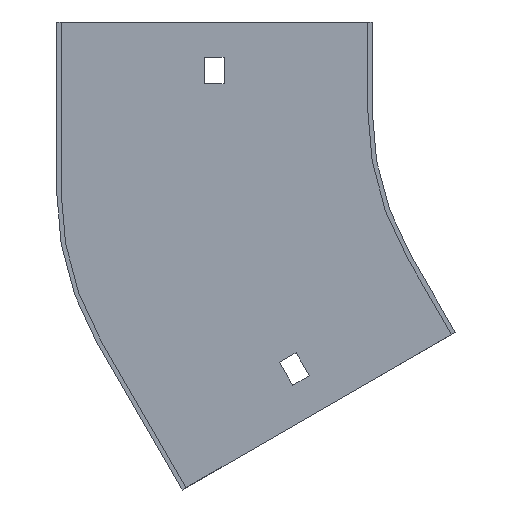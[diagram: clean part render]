
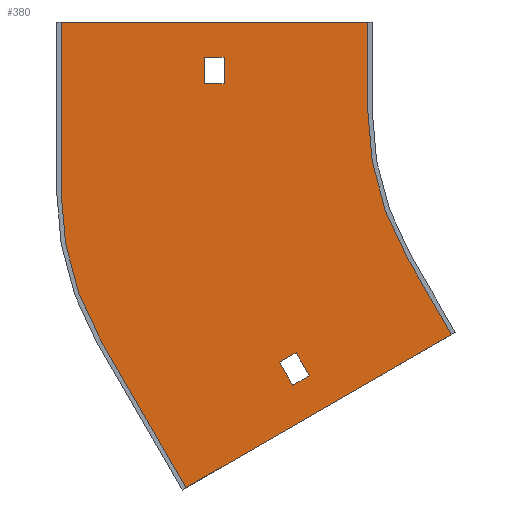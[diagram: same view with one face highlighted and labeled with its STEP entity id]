
A CAD part, front view. The second image highlights one B-rep face of the part: STEP entity #380.
In plain terms, the highlighted planar face has unit normal (0, -1, 0).
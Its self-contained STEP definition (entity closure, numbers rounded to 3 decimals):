
#3 = VECTOR ( 'NONE', #405, 1000. ) ;
#8 = DIRECTION ( 'NONE',  ( 0.866, 0., 0.5 ) ) ;
#14 = EDGE_CURVE ( 'NONE', #391, #451, #806, .T. ) ;
#15 = DIRECTION ( 'NONE',  ( 0., -1., 0. ) ) ;
#19 = ORIENTED_EDGE ( 'NONE', *, *, #713, .T. ) ;
#32 = VECTOR ( 'NONE', #241, 1000. ) ;
#35 = AXIS2_PLACEMENT_3D ( 'NONE', #521, #575, #245 ) ;
#37 = CARTESIAN_POINT ( 'NONE',  ( -71.603, -1.5, -75.981 ) ) ;
#39 = ORIENTED_EDGE ( 'NONE', *, *, #263, .F. ) ;
#40 = CARTESIAN_POINT ( 'NONE',  ( -119.821, -1.5, -89.963 ) ) ;
#54 = LINE ( 'NONE', #593, #707 ) ;
#60 = CARTESIAN_POINT ( 'NONE',  ( -204., -1.5, -27.867 ) ) ;
#68 = ORIENTED_EDGE ( 'NONE', *, *, #14, .F. ) ;
#73 = CARTESIAN_POINT ( 'NONE',  ( -134.45, -1.5, -77.625 ) ) ;
#82 = VECTOR ( 'NONE', #552, 1000. ) ;
#108 = LINE ( 'NONE', #586, #32 ) ;
#114 = VERTEX_POINT ( 'NONE', #408 ) ;
#122 = VECTOR ( 'NONE', #148, 1000. ) ;
#123 = DIRECTION ( 'NONE',  ( -0.5, 0., 0.866 ) ) ;
#134 = EDGE_CURVE ( 'NONE', #244, #302, #540, .T. ) ;
#138 = DIRECTION ( 'NONE',  ( -0.866, 0., -0.5 ) ) ;
#144 = VERTEX_POINT ( 'NONE', #796 ) ;
#148 = DIRECTION ( 'NONE',  ( 0.5, 0., -0.866 ) ) ;
#154 = DIRECTION ( 'NONE',  ( 0., 0., -1. ) ) ;
#159 = LINE ( 'NONE', #579, #275 ) ;
#160 = CARTESIAN_POINT ( 'NONE',  ( -161.669, -1.5, -127.981 ) ) ;
#171 = CARTESIAN_POINT ( 'NONE',  ( -155.25, -1.5, 9. ) ) ;
#176 = CARTESIAN_POINT ( 'NONE',  ( -204., -1.5, 30. ) ) ;
#180 = ORIENTED_EDGE ( 'NONE', *, *, #277, .F. ) ;
#184 = EDGE_CURVE ( 'NONE', #451, #246, #199, .T. ) ;
#189 = VECTOR ( 'NONE', #329, 1000. ) ;
#198 = CARTESIAN_POINT ( 'NONE',  ( -148.75, -1.5, 0. ) ) ;
#199 = LINE ( 'NONE', #411, #210 ) ;
#210 = VECTOR ( 'NONE', #138, 1000. ) ;
#212 = ORIENTED_EDGE ( 'NONE', *, *, #508, .F. ) ;
#215 = EDGE_CURVE ( 'NONE', #246, #144, #618, .T. ) ;
#218 = CARTESIAN_POINT ( 'NONE',  ( -86.603, -1.5, -50. ) ) ;
#229 = LINE ( 'NONE', #768, #122 ) ;
#233 = LINE ( 'NONE', #160, #821 ) ;
#237 = ORIENTED_EDGE ( 'NONE', *, *, #664, .F. ) ;
#241 = DIRECTION ( 'NONE',  ( 0., 0., 1. ) ) ;
#244 = VERTEX_POINT ( 'NONE', #417 ) ;
#245 = DIRECTION ( 'NONE',  ( 0., 0., -1. ) ) ;
#246 = VERTEX_POINT ( 'NONE', #680 ) ;
#251 = VERTEX_POINT ( 'NONE', #218 ) ;
#254 = DIRECTION ( 'NONE',  ( 0., 0., -1. ) ) ;
#258 = CARTESIAN_POINT ( 'NONE',  ( -128.821, -1.5, -74.375 ) ) ;
#260 = LINE ( 'NONE', #198, #3 ) ;
#263 = EDGE_CURVE ( 'NONE', #114, #721, #818, .T. ) ;
#274 = CARTESIAN_POINT ( 'NONE',  ( -100., -1.5, 0. ) ) ;
#275 = VECTOR ( 'NONE', #308, 1000. ) ;
#277 = EDGE_CURVE ( 'NONE', #721, #251, #345, .T. ) ;
#283 = AXIS2_PLACEMENT_3D ( 'NONE', #602, #666, #254 ) ;
#291 = VECTOR ( 'NONE', #8, 1000. ) ;
#300 = ORIENTED_EDGE ( 'NONE', *, *, #215, .F. ) ;
#302 = VERTEX_POINT ( 'NONE', #758 ) ;
#308 = DIRECTION ( 'NONE',  ( 1., 0., 0. ) ) ;
#323 = VECTOR ( 'NONE', #708, 1000. ) ;
#329 = DIRECTION ( 'NONE',  ( 0., 0., 1. ) ) ;
#344 = CARTESIAN_POINT ( 'NONE',  ( -148.75, -1.5, 9. ) ) ;
#345 = CIRCLE ( 'NONE', #372, 100. ) ;
#369 = VECTOR ( 'NONE', #693, 1000. ) ;
#370 = CARTESIAN_POINT ( 'NONE',  ( -148.75, -1.5, 18. ) ) ;
#371 = CARTESIAN_POINT ( 'NONE',  ( 0., -1.5, 9. ) ) ;
#372 = AXIS2_PLACEMENT_3D ( 'NONE', #555, #15, #154 ) ;
#374 = FACE_OUTER_BOUND ( 'NONE', #862, .T. ) ;
#377 = ORIENTED_EDGE ( 'NONE', *, *, #788, .T. ) ;
#380 = ADVANCED_FACE ( 'NONE', ( #452, #374, #636 ), #584, .T. ) ;
#381 = DIRECTION ( 'NONE',  ( 1., 0., 0. ) ) ;
#391 = VERTEX_POINT ( 'NONE', #40 ) ;
#392 = LINE ( 'NONE', #60, #189 ) ;
#396 = VERTEX_POINT ( 'NONE', #509 ) ;
#399 = VERTEX_POINT ( 'NONE', #370 ) ;
#405 = DIRECTION ( 'NONE',  ( 0., 0., -1. ) ) ;
#408 = CARTESIAN_POINT ( 'NONE',  ( -100., -1.5, 30. ) ) ;
#411 = CARTESIAN_POINT ( 'NONE',  ( 4.5, -1.5, -7.794 ) ) ;
#417 = CARTESIAN_POINT ( 'NONE',  ( -190.603, -1.5, -77.867 ) ) ;
#423 = ORIENTED_EDGE ( 'NONE', *, *, #445, .F. ) ;
#433 = VERTEX_POINT ( 'NONE', #37 ) ;
#438 = EDGE_LOOP ( 'NONE', ( #377, #627, #19, #808 ) ) ;
#440 = DIRECTION ( 'NONE',  ( -0.5, 0., 0.866 ) ) ;
#445 = EDGE_CURVE ( 'NONE', #769, #114, #159, .T. ) ;
#451 = VERTEX_POINT ( 'NONE', #839 ) ;
#452 = FACE_BOUND ( 'NONE', #495, .T. ) ;
#459 = CARTESIAN_POINT ( 'NONE',  ( -161.669, -1.5, -127.981 ) ) ;
#495 = EDGE_LOOP ( 'NONE', ( #68, #237, #300, #539 ) ) ;
#508 = EDGE_CURVE ( 'NONE', #302, #769, #392, .T. ) ;
#509 = CARTESIAN_POINT ( 'NONE',  ( -155.25, -1.5, 18. ) ) ;
#520 = EDGE_CURVE ( 'NONE', #251, #433, #229, .T. ) ;
#521 = CARTESIAN_POINT ( 'NONE',  ( 0., -1.5, 0. ) ) ;
#523 = ORIENTED_EDGE ( 'NONE', *, *, #520, .F. ) ;
#539 = ORIENTED_EDGE ( 'NONE', *, *, #184, .F. ) ;
#540 = CIRCLE ( 'NONE', #283, 100. ) ;
#552 = DIRECTION ( 'NONE',  ( 0.5, 0., -0.866 ) ) ;
#555 = CARTESIAN_POINT ( 'NONE',  ( 0., -1.5, 0. ) ) ;
#563 = EDGE_CURVE ( 'NONE', #433, #589, #841, .T. ) ;
#573 = EDGE_CURVE ( 'NONE', #578, #396, #108, .T. ) ;
#575 = DIRECTION ( 'NONE',  ( 0., -1., 0. ) ) ;
#578 = VERTEX_POINT ( 'NONE', #171 ) ;
#579 = CARTESIAN_POINT ( 'NONE',  ( -205.5, -1.5, 30. ) ) ;
#584 = PLANE ( 'NONE',  #35 ) ;
#586 = CARTESIAN_POINT ( 'NONE',  ( -155.25, -1.5, 0. ) ) ;
#589 = VERTEX_POINT ( 'NONE', #459 ) ;
#593 = CARTESIAN_POINT ( 'NONE',  ( 0., -1.5, 18. ) ) ;
#602 = CARTESIAN_POINT ( 'NONE',  ( -104., -1.5, -27.867 ) ) ;
#618 = LINE ( 'NONE', #73, #82 ) ;
#624 = EDGE_CURVE ( 'NONE', #399, #649, #260, .T. ) ;
#627 = ORIENTED_EDGE ( 'NONE', *, *, #624, .T. ) ;
#636 = FACE_BOUND ( 'NONE', #438, .T. ) ;
#639 = ORIENTED_EDGE ( 'NONE', *, *, #811, .F. ) ;
#649 = VERTEX_POINT ( 'NONE', #344 ) ;
#664 = EDGE_CURVE ( 'NONE', #144, #391, #863, .T. ) ;
#666 = DIRECTION ( 'NONE',  ( 0., 1., 0. ) ) ;
#675 = CARTESIAN_POINT ( 'NONE',  ( 9., -1.5, -15.588 ) ) ;
#680 = CARTESIAN_POINT ( 'NONE',  ( -129.95, -1.5, -85.419 ) ) ;
#691 = DIRECTION ( 'NONE',  ( 0., 0., -1. ) ) ;
#693 = DIRECTION ( 'NONE',  ( -1., 0., 0. ) ) ;
#696 = CARTESIAN_POINT ( 'NONE',  ( -100., -1.5, 30. ) ) ;
#700 = LINE ( 'NONE', #371, #369 ) ;
#707 = VECTOR ( 'NONE', #381, 1000. ) ;
#708 = DIRECTION ( 'NONE',  ( -0.866, 0., -0.5 ) ) ;
#713 = EDGE_CURVE ( 'NONE', #649, #578, #700, .T. ) ;
#721 = VERTEX_POINT ( 'NONE', #274 ) ;
#722 = VECTOR ( 'NONE', #691, 1000. ) ;
#726 = CARTESIAN_POINT ( 'NONE',  ( -70.304, -1.5, -75.231 ) ) ;
#751 = ORIENTED_EDGE ( 'NONE', *, *, #563, .F. ) ;
#758 = CARTESIAN_POINT ( 'NONE',  ( -204., -1.5, -27.867 ) ) ;
#760 = VECTOR ( 'NONE', #123, 1000. ) ;
#768 = CARTESIAN_POINT ( 'NONE',  ( -86.603, -1.5, -50. ) ) ;
#769 = VERTEX_POINT ( 'NONE', #176 ) ;
#788 = EDGE_CURVE ( 'NONE', #396, #399, #54, .T. ) ;
#796 = CARTESIAN_POINT ( 'NONE',  ( -125.45, -1.5, -93.213 ) ) ;
#806 = LINE ( 'NONE', #258, #760 ) ;
#808 = ORIENTED_EDGE ( 'NONE', *, *, #573, .T. ) ;
#811 = EDGE_CURVE ( 'NONE', #589, #244, #233, .T. ) ;
#818 = LINE ( 'NONE', #696, #722 ) ;
#821 = VECTOR ( 'NONE', #440, 1000. ) ;
#839 = CARTESIAN_POINT ( 'NONE',  ( -124.321, -1.5, -82.169 ) ) ;
#841 = LINE ( 'NONE', #726, #323 ) ;
#854 = ORIENTED_EDGE ( 'NONE', *, *, #134, .F. ) ;
#862 = EDGE_LOOP ( 'NONE', ( #423, #212, #854, #639, #751, #523, #180, #39 ) ) ;
#863 = LINE ( 'NONE', #675, #291 ) ;
